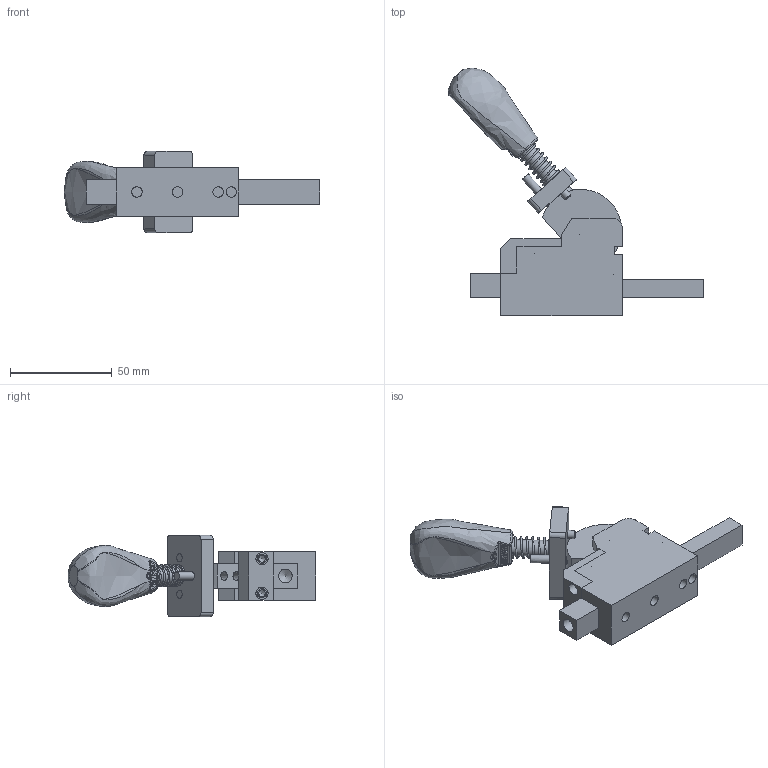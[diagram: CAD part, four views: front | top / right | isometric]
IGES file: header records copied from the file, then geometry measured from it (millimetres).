
Global section: file name: KCP-40ST-UNCLAMP; native system: Autodesk Inventor 2019; preprocessor: unknown; author: 桶田 勝弘,,  11,0; organization: 20171008.232523; date: 20240514.160512; units: millimetre
Bounding box: 125.79 x 121.92 x 40 mm (x, y, z)
Volume: 88507.2 mm3; surface area: 37400.3 mm2
Topology: 11 solids, 11 shells, 255 faces, 685 edges, 457 vertices
Faces by surface type: bspline 255
